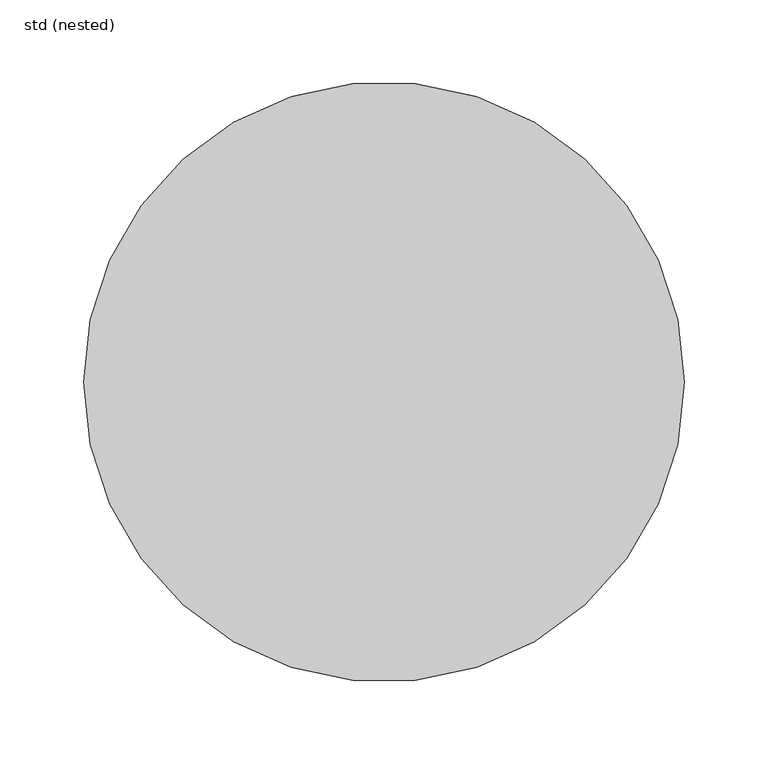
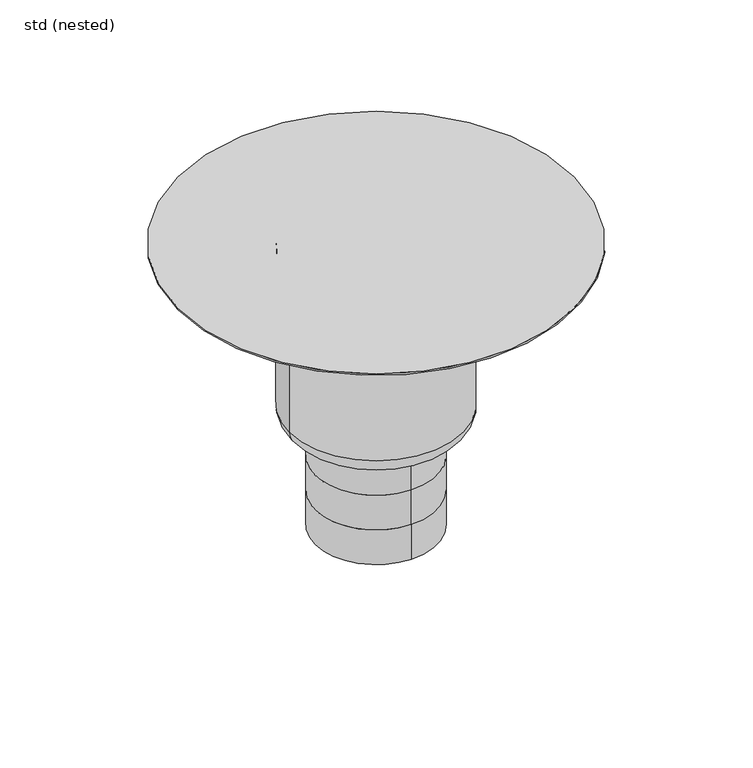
"""IFC4 building model written with IfcOpenShell, lengths in millimetres: sanitary terminal geometry, ZZZ_do not use_PF_ST_UN_telescopic hygienic gully_ACO : std (nested)."""

from ifc_helpers import new_model, si_unit, point, frame, origin, origin_with_axes, place, context, project, spatial, circle_curve, ellipse_curve, trimmed, source, transform, mapped, element, save
from ifc_brep_helpers import plane_surface, cylinder_surface, revolved_surface, advanced_brep


def std_nested_57f2950a(model_context):
    return source(origin(), model_context, "Body", "AdvancedBrep", [
        advanced_brep(
        [(0.0, -55.0, -269.0), (0.0, 55.0, -269.0), (0.0, -55.0, -236.0), (0.0, 55.0, -236.0), (0.0, -55.0, -203.0), (0.0, 55.0, -203.0), (0.0, 55.0, -170.0), (55.0, 0.0, -170.0), (0.0, -55.0, -170.0), (-55.0, 0.0, -170.0), (78.5, 0.0, -153.5), (-78.5, 0.0, -153.5), (-78.5, 0.0, -1.5), (78.5, 0.0, -1.5), (62.0, 0.0, -170.0), (-62.0, 0.0, -170.0), (-179.0, 0.0, -1.5), (179.0, 0.0, -1.5), (-179.0, 0.0, 0.0), (179.0, 0.0, 0.0)],
        [
            (0, 1, circle_curve(frame((0.0, 0.0, -269.0), z_axis=(0.0, 0.0, -1.0), x_axis=(0.0, 1.0, 0.0)), 55.0)),
            (1, 0, circle_curve(frame((0.0, 0.0, -269.0), z_axis=(0.0, 0.0, -1.0), x_axis=(0.0, 1.0, 0.0)), 55.0)),
            (0, 2),
            (2, 3, circle_curve(frame((0.0, 0.0, -236.0), z_axis=(0.0, 0.0, -1.0), x_axis=(0.0, 1.0, 0.0)), 55.0)),
            (3, 1),
            (3, 2, circle_curve(frame((0.0, 0.0, -236.0), z_axis=(0.0, 0.0, -1.0), x_axis=(0.0, 1.0, 0.0)), 55.0)),
            (4, 2),
            (3, 5),
            (5, 4, circle_curve(frame((0.0, 0.0, -203.0), z_axis=(0.0, 0.0, -1.0), x_axis=(1.0, 0.0, 0.0)), 55.0)),
            (4, 5, circle_curve(frame((0.0, 0.0, -203.0), z_axis=(0.0, 0.0, -1.0), x_axis=(-1.0, 0.0, 0.0)), 55.0)),
            (5, 6),
            (6, 7, circle_curve(frame((0.0, 0.0, -170.0), z_axis=(0.0, 0.0, -1.0), x_axis=(0.0, 1.0, 0.0)), 55.0)),
            (7, 8, circle_curve(frame((0.0, 0.0, -170.0), z_axis=(0.0, 0.0, -1.0), x_axis=(0.0, 1.0, 0.0)), 55.0)),
            (8, 4),
            (8, 9, circle_curve(frame((0.0, 0.0, -170.0), z_axis=(0.0, 0.0, -1.0), x_axis=(0.0, 1.0, 0.0)), 55.0)),
            (9, 6, circle_curve(frame((0.0, 0.0, -170.0), z_axis=(0.0, 0.0, -1.0), x_axis=(0.0, 1.0, 0.0)), 55.0)),
            (10, 11, circle_curve(frame((0.0, 0.0, -153.5), z_axis=(0.0, 0.0, 1.0), x_axis=(-1.0, 0.0, 0.0)), 78.5)),
            (11, 12),
            (12, 13, circle_curve(frame((0.0, 0.0, -1.5), z_axis=(0.0, 0.0, -1.0), x_axis=(-1.0, 0.0, 0.0)), 78.5)),
            (13, 10),
            (11, 10, circle_curve(frame((0.0, 0.0, -153.5), z_axis=(0.0, 0.0, 1.0), x_axis=(-1.0, 0.0, 0.0)), 78.5)),
            (13, 12, circle_curve(frame((0.0, 0.0, -1.5), z_axis=(0.0, 0.0, -1.0), x_axis=(-1.0, 0.0, 0.0)), 78.5)),
            (10, 14, circle_curve(frame((62.0, 0.0, -153.5), z_axis=(0.0, 1.0, 0.0), x_axis=(-1.0, 0.0, 0.0)), 16.5)),
            (14, 15, circle_curve(frame((0.0, 0.0, -170.0), z_axis=(0.0, 0.0, 1.0), x_axis=(-1.0, 0.0, 0.0)), 62.0)),
            (15, 11, circle_curve(frame((-62.0, 0.0, -153.5), z_axis=(0.0, 1.0, 0.0), x_axis=(1.0, 0.0, 0.0)), 16.5)),
            (15, 14, circle_curve(frame((0.0, 0.0, -170.0), z_axis=(0.0, 0.0, 1.0), x_axis=(-1.0, 0.0, 0.0)), 62.0)),
            (14, 7),
            (9, 15),
            (16, 17, circle_curve(frame((0.0, 0.0, -1.5), z_axis=(0.0, 0.0, -1.0), x_axis=(1.0, 0.0, 0.0)), 179.0)),
            (17, 16, circle_curve(frame((0.0, 0.0, -1.5), z_axis=(0.0, 0.0, -1.0), x_axis=(1.0, 0.0, 0.0)), 179.0)),
            (18, 19, circle_curve(origin_with_axes(), 179.0)),
            (19, 18, circle_curve(origin_with_axes(), 179.0)),
            (17, 19),
            (18, 16),
        ],
        [
            plane_surface(frame((0.0, 55.0, -269.0), z_axis=(0.0, 0.0, -1.0), x_axis=(1.0, 0.0, 0.0))),
            cylinder_surface(frame((0.0, 0.0, -236.0), z_axis=(0.0, 0.0, -1.0), x_axis=(0.0, 1.0, 0.0)), 55.0),
            cylinder_surface(frame((0.0, 0.0, -203.0), z_axis=(0.0, 0.0, -1.0), x_axis=(1.0, 0.0, 0.0)), 55.0),
            cylinder_surface(frame((0.0, 0.0, -203.0), z_axis=(0.0, 0.0, -1.0), x_axis=(-1.0, 0.0, 0.0)), 55.0),
            cylinder_surface(frame((0.0, 0.0, -170.0), z_axis=(0.0, 0.0, -1.0), x_axis=(0.0, 1.0, 0.0)), 55.0),
            cylinder_surface(frame((0.0, 0.0, 60.0), z_axis=(0.0, 0.0, -1.0), x_axis=(-1.0, 0.0, 0.0)), 78.5),
            revolved_surface(trimmed(ellipse_curve(frame((-62.0, 0.0, -153.5), z_axis=(0.0, -1.0, 0.0), x_axis=(1.0, 0.0, 0.0)), 16.5, 16.5), [point((-78.5, 0.0, -153.5))], [point((-62.0, 0.0, -170.0))], True, "CARTESIAN"), (0.0, 0.0, 60.0), (0.0, 0.0, -1.0)),
            plane_surface(frame((0.0, 0.0, -170.0), z_axis=(0.0, 0.0, -1.0), x_axis=(-1.0, 0.0, 0.0))),
            plane_surface(frame((179.0, 0.0, -1.5), z_axis=(0.0, 0.0, -1.0), x_axis=(0.0, -1.0, 0.0))),
            plane_surface(frame((179.0, 0.0, 0.0), z_axis=(0.0, 0.0, 1.0), x_axis=(0.0, 1.0, 0.0))),
            cylinder_surface(frame((0.0, 0.0, -1.5), z_axis=(0.0, 0.0, 1.0), x_axis=(1.0, 0.0, 0.0)), 179.0),
        ],
        [
            (0, [[1, 2]]),
            (1, [[-1, 3, 4, 5]]),
            (1, [[-2, -5, 6, -3]]),
            (2, [[7, -6, 8, 9]]),
            (3, [[-7, 10, -8, -4]]),
            (4, [[11, 12, 13, 14, -9]]),
            (4, [[-11, -10, -14, 15, 16]]),
            (5, [[17, 18, 19, 20]]),
            (5, [[-18, 21, -20, 22]]),
            (6, [[-17, 23, 24, 25]]),
            (6, [[-21, -25, 26, -23]]),
            (7, [[-24, 27, -12, -16, 28]]),
            (7, [[-26, -28, -15, -13, -27]]),
            (8, [[29, 30], [-19, -22]]),
            (9, [[31, 32]]),
            (10, [[-30, 33, -31, 34]]),
            (10, [[-29, -34, -32, -33]]),
        ],
    ),
    ])


if __name__ == "__main__":
    model = new_model("IFC4")
    model_context = context("Model", 3, world=origin())
    ifc_project = project(units=[si_unit("LENGTHUNIT", "METRE", prefix="MILLI")], contexts=[model_context])
    site = spatial("IfcSite", under=ifc_project)
    building = spatial("IfcBuilding", under=site)
    placement = place(None, origin())
    std_nested_shape = std_nested_57f2950a(model_context)
    element("IfcSanitaryTerminal", 1, ObjectType="ZZZ_do not use_PF_ST_UN_telescopic hygienic gully_ACO : std (nested)", at=placement, inside=building, context=model_context, shape_type="MappedRepresentation", body=[
        mapped(std_nested_shape, transform((0.0, 0.0, 0.0), x_axis=(1.0, 0.0, 0.0), y_axis=(0.0, 1.0, 0.0), z_axis=(0.0, 0.0, 1.0))),
    ])
    save(model, "model.ifc")
